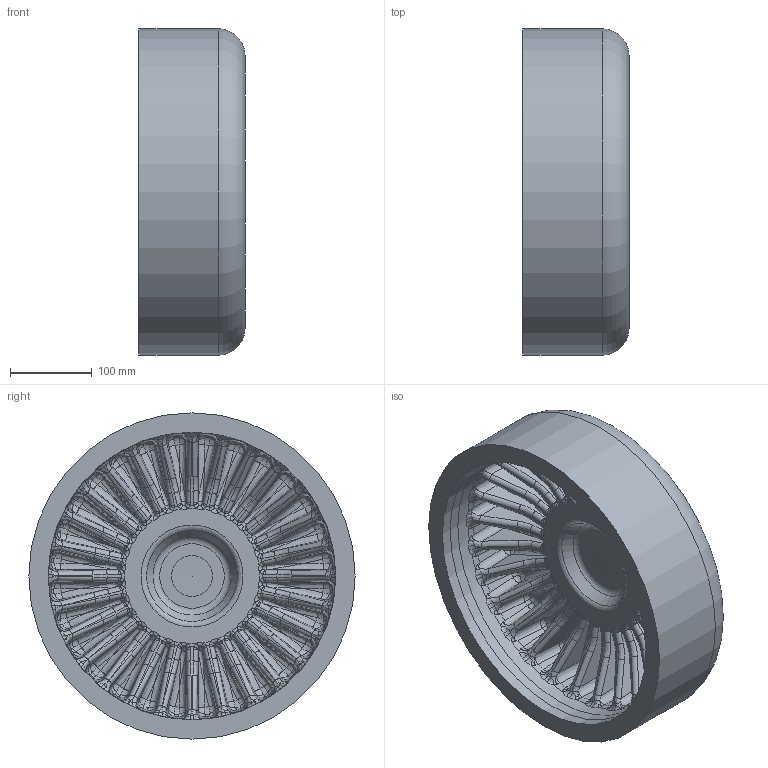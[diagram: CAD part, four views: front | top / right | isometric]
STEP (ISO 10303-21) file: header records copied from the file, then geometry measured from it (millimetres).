
FILE_DESCRIPTION(/* description */ ('Unknown'),/* implementation_level */ '2;1');
FILE_NAME(/* name */ 'CAP400B',/* time_stamp */ '2022-05-16T09:20:00+02:00',/* author */ ('Unknown'),/* organization */ ('Unknown'),/* preprocessor_version */ 'ST-DEVELOPER v18.1',/* originating_system */ 'Solid Edge',/* authorisation */ 'Unknown');
FILE_SCHEMA (('AUTOMOTIVE_DESIGN {1 0 10303 214 3 1 1}'));
Products named in the file (1): CAP400B
Bounding box: 130 x 400 x 400 mm (x, y, z)
Volume: 7787021.3 mm3; surface area: 602418.5 mm2
Topology: 1 solids, 1 shells, 1193 faces, 2802 edges, 1529 vertices
Faces by surface type: bspline 760, cylinder 198, plane 116, torus 60, cone 59
Full cylindrical faces by diameter (mm): 352.6 x1, 400 x1
Entity records: 55888 total; most frequent: CARTESIAN_POINT 34475, ORIENTED_EDGE 5414, DIRECTION 3194, EDGE_CURVE 2707, VERTEX_POINT 1528, AXIS2_PLACEMENT_3D 1401, B_SPLINE_CURVE_WITH_KNOTS 1348, FACE_BOUND 1205
